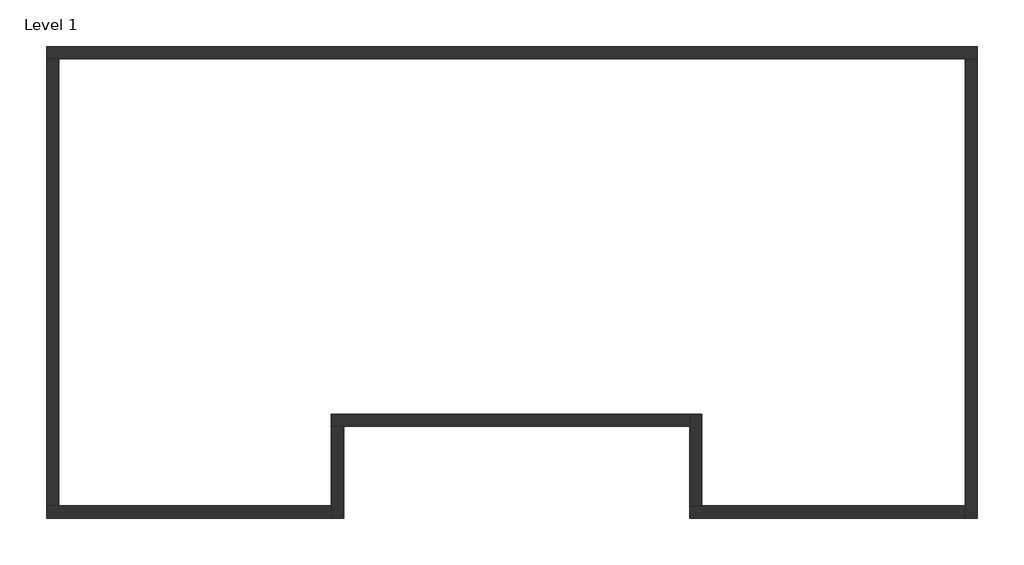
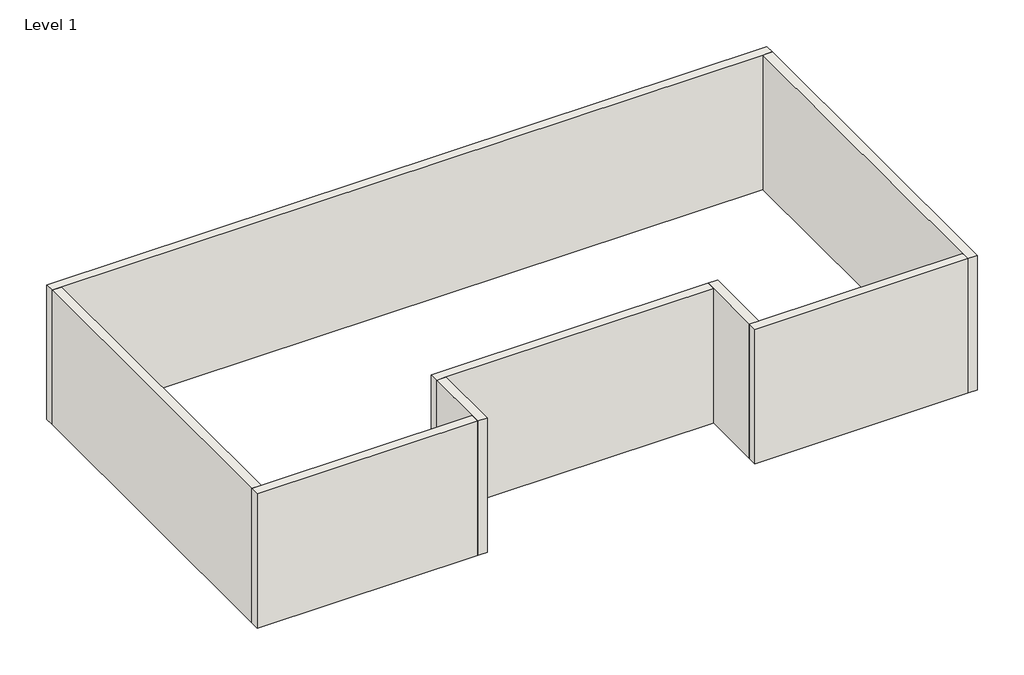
# One storey: 8 walls.
"""IFC4 building model written with IfcOpenShell, lengths in millimetres."""

from ifc_helpers import new_model, si_unit, origin, origin_with_axes, place, context, project, spatial, polyline, outline, extrude, faceted_brep, element, save

model = new_model("IFC4")

# Units and contexts
model_context = context("Model", 3, world=origin())
ifc_project = project(units=[si_unit("LENGTHUNIT", "METRE", prefix="MILLI")], contexts=[model_context])

# Site, building, storey
site = spatial("IfcSite", under=ifc_project)
building = spatial("IfcBuilding", under=site)
storey = spatial("IfcBuildingStorey", under=building, Name="Level 1", Elevation=0.0)

# Walls
placement = place(None, origin())
element("IfcWall", 1, ObjectType="Generic - 8\"", at=placement, inside=storey, context=model_context, shape_type="Brep", body=[
    faceted_brep([(-11961.1815431, 9742.9542041, 0.0), (-11757.9815431, 9742.9542041, 0.0), (3278.8184569, 9742.9542041, 0.0), (3482.0184569, 9742.9542041, 0.0), (3482.0184569, 9742.9542041, 3048.0), (3278.8184569, 9742.9542041, 3048.0), (-11757.9815431, 9742.9542041, 3048.0), (-11961.1815431, 9742.9542041, 3048.0), (-11961.1815431, 9946.1542041, 0.0), (-11961.1815431, 9946.1542041, 3048.0), (3482.0184569, 9946.1542041, 3048.0), (3482.0184569, 9946.1542041, 0.0)], [[[0, 1, 2, 3, 4, 5, 6, 7]], [[8, 9, 10, 11]], [[3, 2, 1, 0, 8, 11]], [[4, 3, 11, 10]], [[0, 7, 9, 8]], [[7, 6, 5, 4, 10, 9]]]),
])
element("IfcWall", 2, ObjectType="Generic - 8\"", at=placement, inside=storey, context=model_context, shape_type="Brep", body=[
    faceted_brep([(3278.8184569, 9742.9542041, 0.0), (3278.8184569, 2326.1542041, 0.0), (3278.8184569, 2122.9542041, 0.0), (3278.8184569, 2122.9542041, 3048.0), (3278.8184569, 2326.1542041, 3048.0), (3278.8184569, 9742.9542041, 3048.0), (3482.0184569, 9742.9542041, 0.0), (3482.0184569, 9742.9542041, 3048.0), (3482.0184569, 2122.9542041, 3048.0), (3482.0184569, 2122.9542041, 0.0)], [[[0, 1, 2, 3, 4, 5]], [[6, 7, 8, 9]], [[2, 1, 0, 6, 9]], [[3, 2, 9, 8]], [[0, 5, 7, 6]], [[5, 4, 3, 8, 7]]]),
])
element("IfcWall", 3, ObjectType="Generic - 8\"", at=placement, inside=storey, context=model_context, shape_type="Brep", body=[
    faceted_brep([(3278.8184569, 2326.1542041, 0.0), (-1089.9815431, 2326.1542041, 0.0), (-1293.1815431, 2326.1542041, 0.0), (-1293.1815431, 2326.1542041, 3048.0), (-1089.9815431, 2326.1542041, 3048.0), (3278.8184569, 2326.1542041, 3048.0), (3278.8184569, 2122.9542041, 0.0), (3278.8184569, 2122.9542041, 3048.0), (-1293.1815431, 2122.9542041, 3048.0), (-1293.1815431, 2122.9542041, 0.0)], [[[0, 1, 2, 3, 4, 5]], [[6, 7, 8, 9]], [[2, 1, 0, 6, 9]], [[3, 2, 9, 8]], [[0, 5, 7, 6]], [[5, 4, 3, 8, 7]]]),
])
element("IfcWall", 4, ObjectType="Generic - 8\"", at=placement, inside=storey, context=model_context, shape_type="Brep", body=[
    faceted_brep([(-1089.9815431, 2326.1542041, 0.0), (-1089.9815431, 3850.1542041, 0.0), (-1089.9815431, 3850.1542041, 3048.0), (-1089.9815431, 2326.1542041, 3048.0), (-1293.1815431, 2326.1542041, 0.0), (-1293.1815431, 2326.1542041, 3048.0), (-1293.1815431, 3646.9542041, 3048.0), (-1293.1815431, 3850.1542041, 3048.0), (-1293.1815431, 3850.1542041, 0.0), (-1293.1815431, 3646.9542041, 0.0)], [[[0, 1, 2, 3]], [[4, 5, 6, 7, 8, 9]], [[1, 0, 4, 9, 8]], [[2, 1, 8, 7]], [[0, 3, 5, 4]], [[3, 2, 7, 6, 5]]]),
])
element("IfcWall", 5, ObjectType="Generic - 8\"", at=placement, inside=storey, context=model_context, shape_type="Brep", body=[
    faceted_brep([(-1293.1815431, 3850.1542041, 0.0), (-7236.7815431, 3850.1542041, 0.0), (-7236.7815431, 3850.1542041, 3048.0), (-1293.1815431, 3850.1542041, 3048.0), (-1293.1815431, 3646.9542041, 0.0), (-1293.1815431, 3646.9542041, 3048.0), (-7033.5815431, 3646.9542041, 3048.0), (-7236.7815431, 3646.9542041, 3048.0), (-7236.7815431, 3646.9542041, 0.0), (-7033.5815431, 3646.9542041, 0.0)], [[[0, 1, 2, 3]], [[4, 5, 6, 7, 8, 9]], [[1, 0, 4, 9, 8]], [[2, 1, 8, 7]], [[0, 3, 5, 4]], [[3, 2, 7, 6, 5]]]),
])
element("IfcWall", 6, ObjectType="Generic - 8\"", at=placement, inside=storey, context=model_context, shape_type="Brep", body=[
    faceted_brep([(-7236.7815431, 3646.9542041, 0.0), (-7236.7815431, 2326.1542041, 0.0), (-7236.7815431, 2122.9542041, 0.0), (-7236.7815431, 2122.9542041, 3048.0), (-7236.7815431, 2326.1542041, 3048.0), (-7236.7815431, 3646.9542041, 3048.0), (-7033.5815431, 3646.9542041, 0.0), (-7033.5815431, 3646.9542041, 3048.0), (-7033.5815431, 2122.9542041, 3048.0), (-7033.5815431, 2122.9542041, 0.0)], [[[0, 1, 2, 3, 4, 5]], [[6, 7, 8, 9]], [[2, 1, 0, 6, 9]], [[3, 2, 9, 8]], [[0, 5, 7, 6]], [[5, 4, 3, 8, 7]]]),
])
element("IfcWall", 7, ObjectType="Generic - 8\"", at=placement, inside=storey, context=model_context, shape_type="Brep", body=[
    faceted_brep([(-7236.7815431, 2326.1542041, 0.0), (-11757.9815431, 2326.1542041, 0.0), (-11961.1815431, 2326.1542041, 0.0), (-11961.1815431, 2326.1542041, 3048.0), (-11757.9815431, 2326.1542041, 3048.0), (-7236.7815431, 2326.1542041, 3048.0), (-7236.7815431, 2122.9542041, 0.0), (-7236.7815431, 2122.9542041, 3048.0), (-11961.1815431, 2122.9542041, 3048.0), (-11961.1815431, 2122.9542041, 0.0)], [[[0, 1, 2, 3, 4, 5]], [[6, 7, 8, 9]], [[2, 1, 0, 6, 9]], [[3, 2, 9, 8]], [[0, 5, 7, 6]], [[5, 4, 3, 8, 7]]]),
])
element("IfcWall", 8, ObjectType="Generic - 8\"", at=placement, inside=storey, context=model_context, shape_type="SweptSolid", body=[
    extrude(outline(polyline([(-11757.9815431, 9742.9542041), (-11757.9815431, 2326.1542041), (-11961.1815431, 2326.1542041), (-11961.1815431, 9742.9542041), (-11757.9815431, 9742.9542041)])), origin_with_axes(), (0.0, 0.0, 1.0), 3048.0),
])

save(model, "model.ifc")
